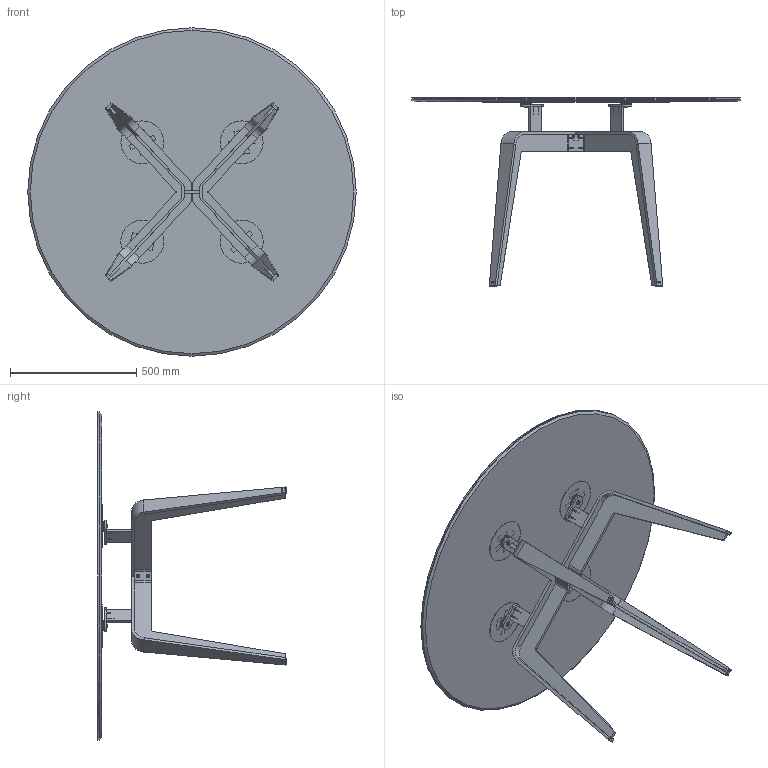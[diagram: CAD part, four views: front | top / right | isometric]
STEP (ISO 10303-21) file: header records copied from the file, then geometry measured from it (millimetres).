
FILE_DESCRIPTION (( 'STEP AP203' ), '1' );
FILE_NAME ('Table Odessa ovale plateau grès D130.STEP', '2026-10-06T13:46:54', ( '' ), ( '' ), 'SwSTEP 2.0', 'SolidWorks 2023', '' );
FILE_SCHEMA (( 'CONFIG_CONTROL_DESIGN' ));
Length unit declared in the file: millimetre
Products named in the file (12): 0007aa8_020-Longeron table ronde; Rondelle 06x18 (81078854)_Zinguée; 0007a92_010-Demi-Pietement table ronde ou ovale<Brut d''usinage>; 00075f7_010-Plateau circulaire Grès contre-collé 1300-Noir; 0007a9f_020-Pietement complet table ronde; 0007caf_010-Rondelle à denture extérieure chevauchante AZ - DIN 6798 A - Acier ressort Zn 400 HBS; Table Odessa ovale plateau grès D130; 0007b88_030 - Plateau rond D1300 avec platines; 0003c34_010-Patin pietement LMV; 000af63_010-Platine D170 M6; Vis M6x16 TBHC Zinguée (81079230)_Zinguée; Vis M6x20 TBHC Zinguée (81064950)_Zinguée
Assembly tree (50 placements, depth 3):
  Table Odessa ovale plateau grès D130
    0007b88_030 - Plateau rond D1300 avec platines
      00075f7_010-Plateau circulaire Grès contre-collé 1300-Noir
      000af63_010-Platine D170 M6  x4
    0007a9f_020-Pietement complet table ronde
      0007a92_010-Demi-Pietement table ronde ou ovale<Brut d''usinage>  x2
      0003c34_010-Patin pietement LMV  x4
      0007aa8_020-Longeron table ronde
      Vis M6x20 TBHC Zinguée (81064950)_Zinguée  x14
      0007caf_010-Rondelle à denture extérieure chevauchante AZ - DIN 6798 A - Acier ressort Zn 400 HBS  x14
      Vis M6x16 TBHC Zinguée (81079230)_Zinguée  x4
      Rondelle 06x18 (81078854)_Zinguée  x4
Bounding box: 1300 x 747.58 x 1300 mm (x, y, z)
Volume: 26901116.8 mm3; surface area: 3990404.5 mm2
Topology: 64 solids, 64 shells, 3738 faces, 8380 edges, 4790 vertices
Faces by surface type: cone 1530, cylinder 1144, plane 928, torus 136
Entity records: 20044 total; most frequent: DIRECTION 3288, CARTESIAN_POINT 3254, ORIENTED_EDGE 2844, EDGE_CURVE 1422, AXIS2_PLACEMENT_3D 1250, VERTEX_POINT 848, VECTOR 788, LINE 788
